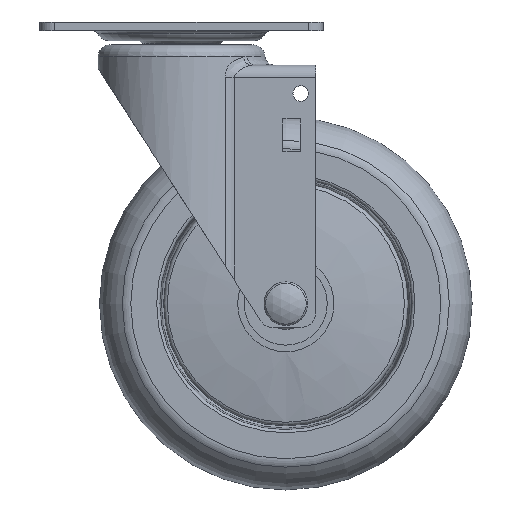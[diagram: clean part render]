
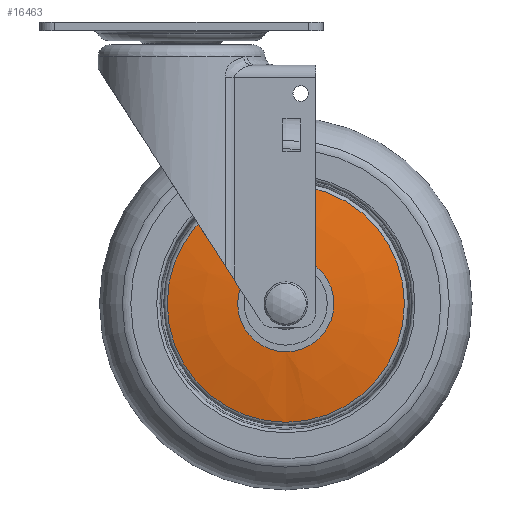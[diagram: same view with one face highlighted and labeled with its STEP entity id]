
A CAD part, front view. The second image highlights one B-rep face of the part: STEP entity #16463.
In plain terms, the highlighted free-form (B-spline) face has degree [2, 2] with [3, 9] control points.
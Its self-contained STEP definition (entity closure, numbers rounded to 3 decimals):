
#56=(
BOUNDED_CURVE()
B_SPLINE_CURVE(2,(#26341,#26342,#26343),.UNSPECIFIED.,.F.,.F.)
B_SPLINE_CURVE_WITH_KNOTS((3,3),(1.358,1.496),
 .UNSPECIFIED.)
CURVE()
GEOMETRIC_REPRESENTATION_ITEM()
RATIONAL_B_SPLINE_CURVE((1.,0.998,1.))
REPRESENTATION_ITEM('')
);
#85=(
BOUNDED_SURFACE()
B_SPLINE_SURFACE(2,2,((#26310,#26311,#26312,#26313,#26314,#26315,#26316,
#26317,#26318),(#26319,#26320,#26321,#26322,#26323,#26324,#26325,#26326,
#26327),(#26328,#26329,#26330,#26331,#26332,#26333,#26334,#26335,#26336)),
 .UNSPECIFIED.,.F.,.T.,.F.)
B_SPLINE_SURFACE_WITH_KNOTS((3,3),(3,2,2,2,3),(-1.496,-1.358),
(-3.142,-1.571,0.,1.571,3.142),
 .UNSPECIFIED.)
GEOMETRIC_REPRESENTATION_ITEM()
RATIONAL_B_SPLINE_SURFACE(((1.,0.707,1.,0.707,1.,
0.707,1.,0.707,1.),(0.998,0.705,
0.998,0.705,0.998,0.705,
0.998,0.705,0.998),(1.,0.707,
1.,0.707,1.,0.707,1.,0.707,1.)))
REPRESENTATION_ITEM('')
SURFACE()
);
#5765=FACE_OUTER_BOUND('',#6786,.T.);
#6786=EDGE_LOOP('',(#15131,#15132,#15133,#15134,#15135,#15136));
#7156=CIRCLE('',#17498,16.136);
#7157=CIRCLE('',#17499,16.136);
#7158=CIRCLE('',#17500,39.788);
#7159=CIRCLE('',#17501,39.788);
#8655=VERTEX_POINT('',#26303);
#8656=VERTEX_POINT('',#26304);
#8657=VERTEX_POINT('',#26337);
#8658=VERTEX_POINT('',#26338);
#10855=EDGE_CURVE('',#8655,#8656,#7156,.T.);
#10856=EDGE_CURVE('',#8656,#8655,#7157,.T.);
#10858=EDGE_CURVE('',#8657,#8658,#7158,.T.);
#10859=EDGE_CURVE('',#8658,#8657,#7159,.T.);
#10860=EDGE_CURVE('',#8658,#8656,#56,.T.);
#15131=ORIENTED_EDGE('',*,*,#10858,.F.);
#15132=ORIENTED_EDGE('',*,*,#10859,.F.);
#15133=ORIENTED_EDGE('',*,*,#10860,.T.);
#15134=ORIENTED_EDGE('',*,*,#10856,.T.);
#15135=ORIENTED_EDGE('',*,*,#10855,.T.);
#15136=ORIENTED_EDGE('',*,*,#10860,.F.);
#16463=ADVANCED_FACE('',(#5765),#85,.F.);
#17498=AXIS2_PLACEMENT_3D('',#26305,#21385,#21386);
#17499=AXIS2_PLACEMENT_3D('',#26306,#21387,#21388);
#17500=AXIS2_PLACEMENT_3D('',#26339,#21389,#21390);
#17501=AXIS2_PLACEMENT_3D('',#26340,#21391,#21392);
#21385=DIRECTION('center_axis',(0.,1.,0.));
#21386=DIRECTION('ref_axis',(1.,0.,0.));
#21387=DIRECTION('center_axis',(0.,1.,0.));
#21388=DIRECTION('ref_axis',(1.,0.,0.));
#21389=DIRECTION('center_axis',(0.,1.,0.));
#21390=DIRECTION('ref_axis',(1.,0.,0.));
#21391=DIRECTION('center_axis',(0.,1.,0.));
#21392=DIRECTION('ref_axis',(1.,0.,0.));
#26303=CARTESIAN_POINT('',(26.5,-18.667,-23.264));
#26304=CARTESIAN_POINT('',(26.5,-18.667,-55.536));
#26305=CARTESIAN_POINT('Origin',(26.5,-18.667,-39.4));
#26306=CARTESIAN_POINT('Origin',(26.5,-18.667,-39.4));
#26310=CARTESIAN_POINT('Ctrl Pts',(26.5,-18.667,-55.536));
#26311=CARTESIAN_POINT('Ctrl Pts',(10.364,-18.667,-55.536));
#26312=CARTESIAN_POINT('Ctrl Pts',(10.364,-18.667,-39.4));
#26313=CARTESIAN_POINT('Ctrl Pts',(10.364,-18.667,-23.264));
#26314=CARTESIAN_POINT('Ctrl Pts',(26.5,-18.667,-23.264));
#26315=CARTESIAN_POINT('Ctrl Pts',(42.636,-18.667,-23.264));
#26316=CARTESIAN_POINT('Ctrl Pts',(42.636,-18.667,-39.4));
#26317=CARTESIAN_POINT('Ctrl Pts',(42.636,-18.667,-55.536));
#26318=CARTESIAN_POINT('Ctrl Pts',(26.5,-18.667,-55.536));
#26319=CARTESIAN_POINT('Ctrl Pts',(26.5,-17.777,-67.48));
#26320=CARTESIAN_POINT('Ctrl Pts',(-1.58,-17.777,-67.48));
#26321=CARTESIAN_POINT('Ctrl Pts',(-1.58,-17.777,
-39.4));
#26322=CARTESIAN_POINT('Ctrl Pts',(-1.58,-17.777,-11.32));
#26323=CARTESIAN_POINT('Ctrl Pts',(26.5,-17.777,-11.32));
#26324=CARTESIAN_POINT('Ctrl Pts',(54.58,-17.777,-11.32));
#26325=CARTESIAN_POINT('Ctrl Pts',(54.58,-17.777,-39.4));
#26326=CARTESIAN_POINT('Ctrl Pts',(54.58,-17.777,-67.48));
#26327=CARTESIAN_POINT('Ctrl Pts',(26.5,-17.777,-67.48));
#26328=CARTESIAN_POINT('Ctrl Pts',(26.5,-15.25,-79.188));
#26329=CARTESIAN_POINT('Ctrl Pts',(-13.288,-15.25,
-79.188));
#26330=CARTESIAN_POINT('Ctrl Pts',(-13.288,-15.25,
-39.4));
#26331=CARTESIAN_POINT('Ctrl Pts',(-13.288,-15.25,
0.388));
#26332=CARTESIAN_POINT('Ctrl Pts',(26.5,-15.25,0.388));
#26333=CARTESIAN_POINT('Ctrl Pts',(66.288,-15.25,0.388));
#26334=CARTESIAN_POINT('Ctrl Pts',(66.288,-15.25,-39.4));
#26335=CARTESIAN_POINT('Ctrl Pts',(66.288,-15.25,-79.188));
#26336=CARTESIAN_POINT('Ctrl Pts',(26.5,-15.25,-79.188));
#26337=CARTESIAN_POINT('',(26.5,-15.25,0.388));
#26338=CARTESIAN_POINT('',(26.5,-15.25,-79.188));
#26339=CARTESIAN_POINT('Origin',(26.5,-15.25,-39.4));
#26340=CARTESIAN_POINT('Origin',(26.5,-15.25,-39.4));
#26341=CARTESIAN_POINT('Ctrl Pts',(26.5,-15.25,-79.188));
#26342=CARTESIAN_POINT('Ctrl Pts',(26.5,-17.777,-67.48));
#26343=CARTESIAN_POINT('Ctrl Pts',(26.5,-18.667,-55.536));
